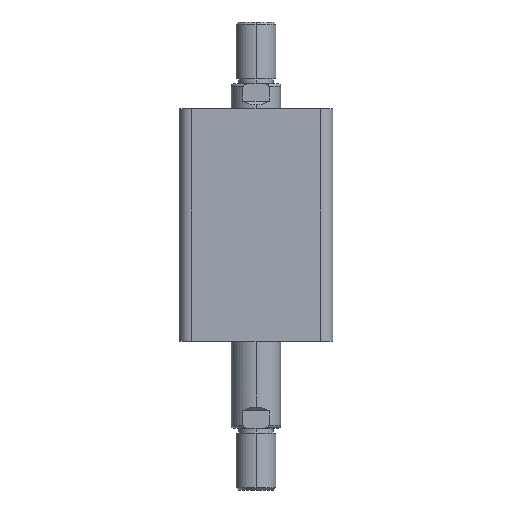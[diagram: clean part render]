
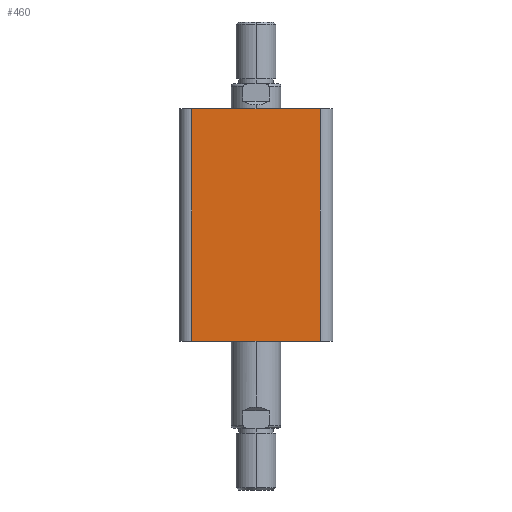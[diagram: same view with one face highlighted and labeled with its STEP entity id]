
A CAD part, left-side view. The second image highlights one B-rep face of the part: STEP entity #460.
In plain terms, the highlighted planar face has unit normal (-1, 0, 0).
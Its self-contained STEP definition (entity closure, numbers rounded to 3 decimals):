
#460 = ADVANCED_FACE ( 'NONE', ( #1688 ), #1269, .F. ) ;
#555 = EDGE_CURVE ( 'NONE', #2004, #2003, #1812, .T. ) ;
#556 = EDGE_CURVE ( 'NONE', #2003, #2012, #1808, .T. ) ;
#557 = EDGE_CURVE ( 'NONE', #2013, #2012, #1816, .T. ) ;
#558 = EDGE_CURVE ( 'NONE', #2013, #2004, #1818, .T. ) ;
#637 = AXIS2_PLACEMENT_3D ( 'NONE', #743, #741, #742 ) ;
#741 = DIRECTION ( 'NONE',  ( 1., 0., 0. ) ) ;
#742 = DIRECTION ( 'NONE',  ( 0., 1., 0. ) ) ;
#743 = CARTESIAN_POINT ( 'NONE',  ( -31., 31., 94. ) ) ;
#1269 = PLANE ( 'NONE',  #637 ) ;
#1557 = CARTESIAN_POINT ( 'NONE',  ( -31., -26., 0. ) ) ;
#1559 = CARTESIAN_POINT ( 'NONE',  ( -31., 26., 0. ) ) ;
#1569 = CARTESIAN_POINT ( 'NONE',  ( -31., -26., 94. ) ) ;
#1570 = CARTESIAN_POINT ( 'NONE',  ( -31., 26., 94. ) ) ;
#1599 = EDGE_LOOP ( 'NONE', ( #3045, #3046, #3047, #3048 ) ) ;
#1688 = FACE_OUTER_BOUND ( 'NONE', #1599, .T. ) ;
#1808 = LINE ( 'NONE', #2440, #1817 ) ;
#1812 = LINE ( 'NONE', #2451, #1815 ) ;
#1815 = VECTOR ( 'NONE', #2452, 1000. ) ;
#1816 = LINE ( 'NONE', #2454, #1819 ) ;
#1817 = VECTOR ( 'NONE', #2453, 1000. ) ;
#1818 = LINE ( 'NONE', #2456, #1821 ) ;
#1819 = VECTOR ( 'NONE', #2455, 1000. ) ;
#1821 = VECTOR ( 'NONE', #2457, 1000. ) ;
#2003 = VERTEX_POINT ( 'NONE', #1557 ) ;
#2004 = VERTEX_POINT ( 'NONE', #1559 ) ;
#2012 = VERTEX_POINT ( 'NONE', #1569 ) ;
#2013 = VERTEX_POINT ( 'NONE', #1570 ) ;
#2440 = CARTESIAN_POINT ( 'NONE',  ( -31., -26., 94. ) ) ;
#2451 = CARTESIAN_POINT ( 'NONE',  ( -31., 31., 0. ) ) ;
#2452 = DIRECTION ( 'NONE',  ( 0., -1., 0. ) ) ;
#2453 = DIRECTION ( 'NONE',  ( 0., 0., 1. ) ) ;
#2454 = CARTESIAN_POINT ( 'NONE',  ( -31., 31., 94. ) ) ;
#2455 = DIRECTION ( 'NONE',  ( 0., -1., 0. ) ) ;
#2456 = CARTESIAN_POINT ( 'NONE',  ( -31., 26., 94. ) ) ;
#2457 = DIRECTION ( 'NONE',  ( 0., 0., -1. ) ) ;
#3045 = ORIENTED_EDGE ( 'NONE', *, *, #555, .T. ) ;
#3046 = ORIENTED_EDGE ( 'NONE', *, *, #556, .T. ) ;
#3047 = ORIENTED_EDGE ( 'NONE', *, *, #557, .F. ) ;
#3048 = ORIENTED_EDGE ( 'NONE', *, *, #558, .T. ) ;
